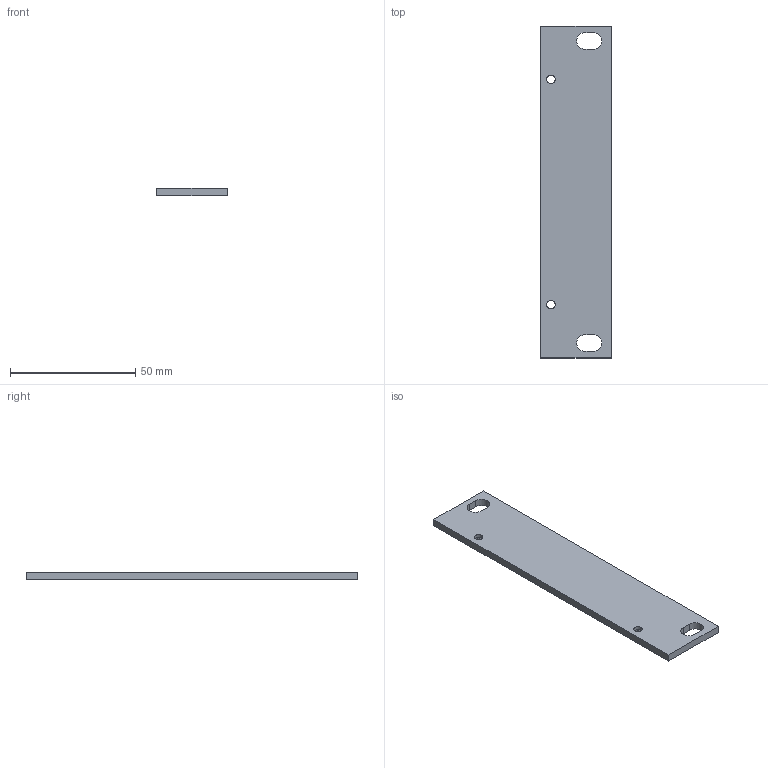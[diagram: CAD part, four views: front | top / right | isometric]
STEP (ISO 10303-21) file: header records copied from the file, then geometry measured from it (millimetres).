
FILE_DESCRIPTION(('Open CASCADE Model'),'2;1');
FILE_NAME('Open CASCADE Shape Model','2026-10-27T20:43:00',('Author'),( 'Open CASCADE'),'Open CASCADE STEP processor 7.9','Open CASCADE 7.9' ,'Unknown');
FILE_SCHEMA(('AUTOMOTIVE_DESIGN { 1 0 10303 214 1 1 1 1 }'));
Length unit declared in the file: millimetre
Products named in the file (1): Open CASCADE STEP translator 7.9 2
Bounding box: 28 x 132.55 x 3 mm (x, y, z)
Volume: 10705.3 mm3; surface area: 8339.4 mm2
Topology: 1 solids, 1 shells, 18 faces, 46 edges, 30 vertices
Faces by surface type: plane 10, cylinder 6, cone 2
Full cylindrical faces by diameter (mm): 3.4 x2
Entity records: 1180 total; most frequent: CARTESIAN_POINT 269, DIRECTION 158, ORIENTED_EDGE 92, PCURVE 92, DEFINITIONAL_REPRESENTATION 92, LINE 90, VECTOR 90, EDGE_CURVE 46
